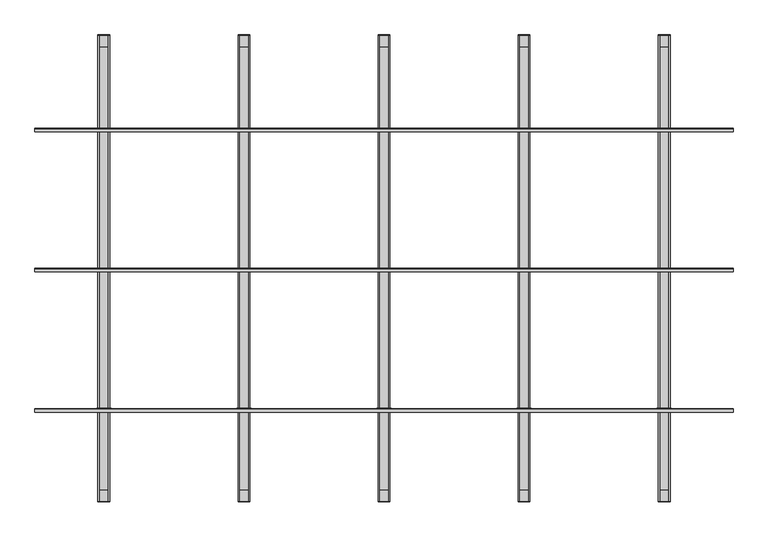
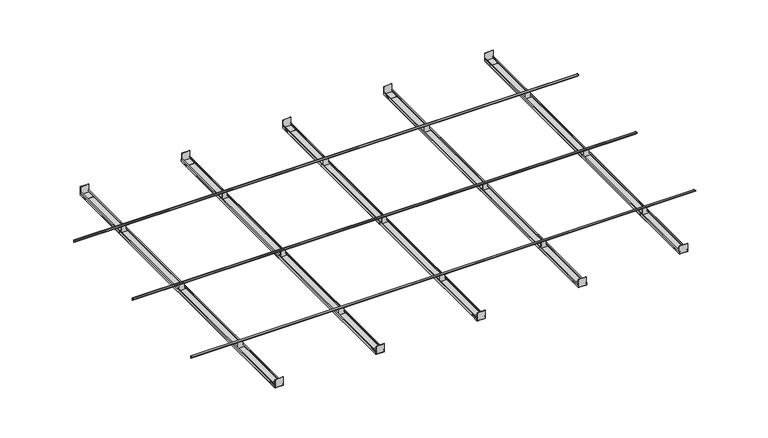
"""IFC4 building model written with IfcOpenShell, lengths in millimetres: proxy geometry, durlum_S5-100 _DOMUS : durlum_S5-100 _DOMUS."""

from ifc_helpers import new_model, si_unit, point, frame, frame_2d, origin, place, context, project, spatial, polyline, circle_curve, trimmed, segment, composite_curve, outline, extrude, source, transform, mapped, element, save


def generic_models_02727b26(model_context):
    return source(origin(), model_context, "Body", "SweptSolid", [
        extrude(outline(polyline([(1151.2053447, -1900.0), (1151.2053447, -1998.75), (1149.9553447, -1998.75), (1149.9553447, -1900.0), (1151.2053447, -1900.0)])), frame((0.0, 0.0, 3801.49723), z_axis=(0.0, 0.0, 1.0), x_axis=(1.0, 0.0, 0.0)), (0.0, 0.0, 1.0), 22.9482224),
        extrude(outline(polyline([(1248.7946553, -1900.0), (1250.0446553, -1900.0), (1250.0446553, -1998.75), (1248.7946553, -1998.75), (1248.7946553, -1900.0)])), frame((0.0, 0.0, 3801.49723), z_axis=(0.0, 0.0, 1.0), x_axis=(1.0, 0.0, 0.0)), (0.0, 0.0, 1.0), 22.9482224),
        extrude(outline(polyline([(-2000.0, 3801.49723), (-2000.0, 3901.49723), (-1998.75, 3901.49723), (-1998.75, 3802.74723), (-1900.0, 3802.74723), (-1900.0, 3801.49723), (-2000.0, 3801.49723)])), frame((1151.2053447, 0.0, 0.0), z_axis=(1.0, 0.0, 0.0), x_axis=(0.0, 1.0, 0.0)), (0.0, 0.0, 1.0), 97.5893106),
        extrude(outline(polyline([(-48.7946553, -1900.0), (-48.7946553, -1998.75), (-50.0446553, -1998.75), (-50.0446553, -1900.0), (-48.7946553, -1900.0)])), frame((0.0, 0.0, 3801.4981533), z_axis=(0.0, 0.0, 1.0), x_axis=(1.0, 0.0, 0.0)), (0.0, 0.0, 1.0), 22.9482224),
        extrude(outline(polyline([(48.7946553, -1900.0), (50.0446553, -1900.0), (50.0446553, -1998.75), (48.7946553, -1998.75), (48.7946553, -1900.0)])), frame((0.0, 0.0, 3801.4981533), z_axis=(0.0, 0.0, 1.0), x_axis=(1.0, 0.0, 0.0)), (0.0, 0.0, 1.0), 22.9482224),
        extrude(outline(polyline([(-2000.0, 3801.4981533), (-2000.0, 3901.4981533), (-1998.75, 3901.4981533), (-1998.75, 3802.7481533), (-1900.0, 3802.7481533), (-1900.0, 3801.4981533), (-2000.0, 3801.4981533)])), frame((-48.7946553, 0.0, 0.0), z_axis=(1.0, 0.0, 0.0), x_axis=(0.0, 1.0, 0.0)), (0.0, 0.0, 1.0), 97.5893106),
        extrude(outline(polyline([(1248.7946553, 1900.0), (1248.7946553, 1998.75), (1250.0446553, 1998.75), (1250.0446553, 1900.0), (1248.7946553, 1900.0)])), frame((0.0, 0.0, 3801.496446), z_axis=(0.0, 0.0, 1.0), x_axis=(1.0, 0.0, 0.0)), (0.0, 0.0, 1.0), 22.9482224),
        extrude(outline(polyline([(1151.2053447, 1900.0), (1149.9553447, 1900.0), (1149.9553447, 1998.75), (1151.2053447, 1998.75), (1151.2053447, 1900.0)])), frame((0.0, 0.0, 3801.496446), z_axis=(0.0, 0.0, 1.0), x_axis=(1.0, 0.0, 0.0)), (0.0, 0.0, 1.0), 22.9482224),
        extrude(outline(polyline([(2000.0, 3801.496446), (1900.0, 3801.496446), (1900.0, 3802.746446), (1998.75, 3802.746446), (1998.75, 3901.496446), (2000.0, 3901.496446), (2000.0, 3801.496446)])), frame((1151.2053447, 0.0, 0.0), z_axis=(1.0, 0.0, 0.0), x_axis=(0.0, 1.0, 0.0)), (0.0, 0.0, 1.0), 97.5893106),
        extrude(outline(polyline([(48.7946553, 1900.0), (48.7946553, 1998.75), (50.0446553, 1998.75), (50.0446553, 1900.0), (48.7946553, 1900.0)])), frame((0.0, 0.0, 3801.4976307), z_axis=(0.0, 0.0, 1.0), x_axis=(1.0, 0.0, 0.0)), (0.0, 0.0, 1.0), 22.9482224),
        extrude(outline(polyline([(-48.7946553, 1900.0), (-50.0446553, 1900.0), (-50.0446553, 1998.75), (-48.7946553, 1998.75), (-48.7946553, 1900.0)])), frame((0.0, 0.0, 3801.4976307), z_axis=(0.0, 0.0, 1.0), x_axis=(1.0, 0.0, 0.0)), (0.0, 0.0, 1.0), 22.9482224),
        extrude(outline(polyline([(2000.0, 3801.4976307), (1900.0, 3801.4976307), (1900.0, 3802.7476307), (1998.75, 3802.7476307), (1998.75, 3901.4976307), (2000.0, 3901.4976307), (2000.0, 3801.4976307)])), frame((-48.7946553, 0.0, 0.0), z_axis=(1.0, 0.0, 0.0), x_axis=(0.0, 1.0, 0.0)), (0.0, 0.0, 1.0), 97.5893106),
        extrude(outline(polyline([(3830.0, -1250.0), (3800.0, -1250.0), (3800.0, -1150.0), (3830.0, -1150.0), (3830.0, -1160.0), (3829.0, -1160.0), (3829.0, -1151.0), (3801.0, -1151.0), (3801.0, -1249.0), (3829.0, -1249.0), (3829.0, -1240.0), (3830.0, -1240.0), (3830.0, -1250.0)])), frame((0.0, -2000.0, 0.0), z_axis=(0.0, 1.0, 0.0), x_axis=(0.0, 0.0, 1.0)), (0.0, 0.0, 1.0), 4000.0),
        extrude(outline(polyline([(3830.0, -50.0), (3800.0, -50.0), (3800.0, 50.0), (3830.0, 50.0), (3830.0, 40.0), (3829.0, 40.0), (3829.0, 49.0), (3801.0, 49.0), (3801.0, -49.0), (3829.0, -49.0), (3829.0, -40.0), (3830.0, -40.0), (3830.0, -50.0)])), frame((0.0, -2000.0, 0.0), z_axis=(0.0, 1.0, 0.0), x_axis=(0.0, 0.0, 1.0)), (0.0, 0.0, 1.0), 4000.0),
        extrude(outline(polyline([(-1151.2053447, 1900.0), (-1151.2053447, 1998.75), (-1149.9553447, 1998.75), (-1149.9553447, 1900.0), (-1151.2053447, 1900.0)])), frame((0.0, 0.0, 3801.4988153), z_axis=(0.0, 0.0, 1.0), x_axis=(1.0, 0.0, 0.0)), (0.0, 0.0, 1.0), 22.9482224),
        extrude(outline(polyline([(-1248.7946553, 1900.0), (-1250.0446553, 1900.0), (-1250.0446553, 1998.75), (-1248.7946553, 1998.75), (-1248.7946553, 1900.0)])), frame((0.0, 0.0, 3801.4988153), z_axis=(0.0, 0.0, 1.0), x_axis=(1.0, 0.0, 0.0)), (0.0, 0.0, 1.0), 22.9482224),
        extrude(outline(polyline([(2000.0, 3801.4988153), (1900.0, 3801.4988153), (1900.0, 3802.7488153), (1998.75, 3802.7488153), (1998.75, 3901.4988153), (2000.0, 3901.4988153), (2000.0, 3801.4988153)])), frame((-1248.7946553, 0.0, 0.0), z_axis=(1.0, 0.0, 0.0), x_axis=(0.0, 1.0, 0.0)), (0.0, 0.0, 1.0), 97.5893106),
        extrude(outline(polyline([(-1248.7946553, -1900.0), (-1248.7946553, -1998.75), (-1250.0446553, -1998.75), (-1250.0446553, -1900.0), (-1248.7946553, -1900.0)])), frame((0.0, 0.0, 3801.4990767), z_axis=(0.0, 0.0, 1.0), x_axis=(1.0, 0.0, 0.0)), (0.0, 0.0, 1.0), 22.9482224),
        extrude(outline(polyline([(-1151.2053447, -1900.0), (-1149.9553447, -1900.0), (-1149.9553447, -1998.75), (-1151.2053447, -1998.75), (-1151.2053447, -1900.0)])), frame((0.0, 0.0, 3801.4990767), z_axis=(0.0, 0.0, 1.0), x_axis=(1.0, 0.0, 0.0)), (0.0, 0.0, 1.0), 22.9482224),
        extrude(outline(polyline([(-2000.0, 3801.4990767), (-2000.0, 3901.4990767), (-1998.75, 3901.4990767), (-1998.75, 3802.7490767), (-1900.0, 3802.7490767), (-1900.0, 3801.4990767), (-2000.0, 3801.4990767)])), frame((-1248.7946553, 0.0, 0.0), z_axis=(1.0, 0.0, 0.0), x_axis=(0.0, 1.0, 0.0)), (0.0, 0.0, 1.0), 97.5893106),
        extrude(outline(polyline([(2351.2053447, -1900.0), (2351.2053447, -1998.75), (2349.9553447, -1998.75), (2349.9553447, -1900.0), (2351.2053447, -1900.0)])), frame((0.0, 0.0, 3801.4963067), z_axis=(0.0, 0.0, 1.0), x_axis=(1.0, 0.0, 0.0)), (0.0, 0.0, 1.0), 22.9482224),
        extrude(outline(polyline([(2448.7946553, -1900.0), (2450.0446553, -1900.0), (2450.0446553, -1998.75), (2448.7946553, -1998.75), (2448.7946553, -1900.0)])), frame((0.0, 0.0, 3801.4963067), z_axis=(0.0, 0.0, 1.0), x_axis=(1.0, 0.0, 0.0)), (0.0, 0.0, 1.0), 22.9482224),
        extrude(outline(polyline([(-2000.0, 3801.4963067), (-2000.0, 3901.4963067), (-1998.75, 3901.4963067), (-1998.75, 3802.7463067), (-1900.0, 3802.7463067), (-1900.0, 3801.4963067), (-2000.0, 3801.4963067)])), frame((2351.2053447, 0.0, 0.0), z_axis=(1.0, 0.0, 0.0), x_axis=(0.0, 1.0, 0.0)), (0.0, 0.0, 1.0), 97.5893106),
        extrude(outline(polyline([(2448.7946553, 1900.0), (2448.7946553, 1998.75), (2450.0446553, 1998.75), (2450.0446553, 1900.0), (2448.7946553, 1900.0)])), frame((0.0, 0.0, 3801.4952614), z_axis=(0.0, 0.0, 1.0), x_axis=(1.0, 0.0, 0.0)), (0.0, 0.0, 1.0), 22.9482224),
        extrude(outline(polyline([(2351.2053447, 1900.0), (2349.9553447, 1900.0), (2349.9553447, 1998.75), (2351.2053447, 1998.75), (2351.2053447, 1900.0)])), frame((0.0, 0.0, 3801.4952614), z_axis=(0.0, 0.0, 1.0), x_axis=(1.0, 0.0, 0.0)), (0.0, 0.0, 1.0), 22.9482224),
        extrude(outline(polyline([(2000.0, 3801.4952614), (1900.0, 3801.4952614), (1900.0, 3802.7452614), (1998.75, 3802.7452614), (1998.75, 3901.4952614), (2000.0, 3901.4952614), (2000.0, 3801.4952614)])), frame((2351.2053447, 0.0, 0.0), z_axis=(1.0, 0.0, 0.0), x_axis=(0.0, 1.0, 0.0)), (0.0, 0.0, 1.0), 97.5893106),
        extrude(outline(polyline([(-2448.7946553, -1900.0), (-2448.7946553, -1998.75), (-2450.0446553, -1998.75), (-2450.0446553, -1900.0), (-2448.7946553, -1900.0)])), frame((0.0, 0.0, 3801.5), z_axis=(0.0, 0.0, 1.0), x_axis=(1.0, 0.0, 0.0)), (0.0, 0.0, 1.0), 22.9482224),
        extrude(outline(polyline([(-2351.2053447, -1900.0), (-2349.9553447, -1900.0), (-2349.9553447, -1998.75), (-2351.2053447, -1998.75), (-2351.2053447, -1900.0)])), frame((0.0, 0.0, 3801.5), z_axis=(0.0, 0.0, 1.0), x_axis=(1.0, 0.0, 0.0)), (0.0, 0.0, 1.0), 22.9482224),
        extrude(outline(polyline([(-2000.0, 3801.5), (-2000.0, 3901.5), (-1998.75, 3901.5), (-1998.75, 3802.75), (-1900.0, 3802.75), (-1900.0, 3801.5), (-2000.0, 3801.5)])), frame((-2448.7946553, 0.0, 0.0), z_axis=(1.0, 0.0, 0.0), x_axis=(0.0, 1.0, 0.0)), (0.0, 0.0, 1.0), 97.5893106),
        extrude(outline(polyline([(-2351.2053447, 1900.0), (-2351.2053447, 1998.75), (-2349.9553447, 1998.75), (-2349.9553447, 1900.0), (-2351.2053447, 1900.0)])), frame((0.0, 0.0, 3801.5), z_axis=(0.0, 0.0, 1.0), x_axis=(1.0, 0.0, 0.0)), (0.0, 0.0, 1.0), 22.9482224),
        extrude(outline(polyline([(-2448.7946553, 1900.0), (-2450.0446553, 1900.0), (-2450.0446553, 1998.75), (-2448.7946553, 1998.75), (-2448.7946553, 1900.0)])), frame((0.0, 0.0, 3801.5), z_axis=(0.0, 0.0, 1.0), x_axis=(1.0, 0.0, 0.0)), (0.0, 0.0, 1.0), 22.9482224),
        extrude(outline(polyline([(2000.0, 3801.5), (1900.0, 3801.5), (1900.0, 3802.75), (1998.75, 3802.75), (1998.75, 3901.5), (2000.0, 3901.5), (2000.0, 3801.5)])), frame((-2448.7946553, 0.0, 0.0), z_axis=(1.0, 0.0, 0.0), x_axis=(0.0, 1.0, 0.0)), (0.0, 0.0, 1.0), 97.5893106),
        extrude(outline(polyline([(3825.0, -1151.7190114), (3825.0, -1153.1717956), (3820.9590465, -1153.1717956), (3820.9590465, -1171.9750683), (3872.9865783, -1171.9750683), (3872.9865783, -1137.653609), (3900.0, -1137.653609), (3900.0, -1262.346391), (3872.9865783, -1262.346391), (3872.9865783, -1228.0249317), (3820.9590465, -1228.0249317), (3820.9590465, -1246.8282044), (3825.0, -1246.8282044), (3825.0, -1248.2809886), (3800.0, -1248.2809886), (3800.0, -1151.7190114), (3825.0, -1151.7190114)])), frame((0.0, 0.0, 0.0), z_axis=(0.0, 1.0, 0.0), x_axis=(0.0, 0.0, 1.0)), (0.0, 0.0, 1.0), 1.9953756),
        extrude(outline(polyline([(3825.0, 48.2809886), (3825.0, 46.8282044), (3820.9590465, 46.8282044), (3820.9590465, 28.0249317), (3872.9865783, 28.0249317), (3872.9865783, 62.346391), (3900.0, 62.346391), (3900.0, -62.346391), (3872.9865783, -62.346391), (3872.9865783, -28.0249317), (3820.9590465, -28.0249317), (3820.9590465, -46.8282044), (3825.0, -46.8282044), (3825.0, -48.2809886), (3800.0, -48.2809886), (3800.0, 48.2809886), (3825.0, 48.2809886)])), frame((0.0, 0.0, 0.0), z_axis=(0.0, 1.0, 0.0), x_axis=(0.0, 0.0, 1.0)), (0.0, 0.0, 1.0), 1.9953756),
        extrude(outline(polyline([(3825.0, 1248.2809886), (3825.0, 1246.8282044), (3820.9590465, 1246.8282044), (3820.9590465, 1228.0249317), (3872.9865783, 1228.0249317), (3872.9865783, 1262.346391), (3900.0, 1262.346391), (3900.0, 1137.653609), (3872.9865783, 1137.653609), (3872.9865783, 1171.9750683), (3820.9590465, 1171.9750683), (3820.9590465, 1153.1717956), (3825.0, 1153.1717956), (3825.0, 1151.7190114), (3800.0, 1151.7190114), (3800.0, 1248.2809886), (3825.0, 1248.2809886)])), frame((0.0, 0.0, 0.0), z_axis=(0.0, 1.0, 0.0), x_axis=(0.0, 0.0, 1.0)), (0.0, 0.0, 1.0), 1.9953756),
        extrude(outline(polyline([(3825.0, -2351.7190114), (3825.0, -2353.1717956), (3820.9590465, -2353.1717956), (3820.9590465, -2371.9750683), (3872.9865783, -2371.9750683), (3872.9865783, -2337.653609), (3900.0, -2337.653609), (3900.0, -2462.346391), (3872.9865783, -2462.346391), (3872.9865783, -2428.0249317), (3820.9590465, -2428.0249317), (3820.9590465, -2446.8282044), (3825.0, -2446.8282044), (3825.0, -2448.2809886), (3800.0, -2448.2809886), (3800.0, -2351.7190114), (3825.0, -2351.7190114)])), frame((0.0, 0.0, 0.0), z_axis=(0.0, 1.0, 0.0), x_axis=(0.0, 0.0, 1.0)), (0.0, 0.0, 1.0), 1.9953756),
        extrude(outline(polyline([(3825.0, 2448.2809886), (3825.0, 2446.8282044), (3820.9590465, 2446.8282044), (3820.9590465, 2428.0249317), (3872.9865783, 2428.0249317), (3872.9865783, 2462.346391), (3900.0, 2462.346391), (3900.0, 2337.653609), (3872.9865783, 2337.653609), (3872.9865783, 2371.9750683), (3820.9590465, 2371.9750683), (3820.9590465, 2353.1717956), (3825.0, 2353.1717956), (3825.0, 2351.7190114), (3800.0, 2351.7190114), (3800.0, 2448.2809886), (3825.0, 2448.2809886)])), frame((0.0, 0.0, 0.0), z_axis=(0.0, 1.0, 0.0), x_axis=(0.0, 0.0, 1.0)), (0.0, 0.0, 1.0), 1.9953756),
        extrude(outline(composite_curve([segment(polyline([(-2.0, 3876.1), (-2.0, 3902.0)]), True, "CONTINUOUS"), segment(trimmed(circle_curve(frame_2d((-4.0, 3902.0)), 2.0), [point((-2.0, 3902.0))], [point((-4.0, 3904.0))], True, "CARTESIAN"), True, "CONTINUOUS"), segment(polyline([(-4.0, 3904.0), (-29.9, 3904.0), (-29.9, 3906.0), (-4.0, 3906.0)]), True, "CONTINUOUS"), segment(trimmed(circle_curve(frame_2d((-4.0, 3902.0)), 4.0), [point((-4.0, 3906.0))], [point((0.0, 3902.0))], False, "CARTESIAN"), True, "CONTINUOUS"), segment(polyline([(0.0, 3902.0), (0.0, 3876.1), (-2.0, 3876.1)]), True, "CONTINUOUS")], self_intersect=False)), frame((-2990.0, 0.0, 0.0), z_axis=(1.0, 0.0, 0.0), x_axis=(0.0, 1.0, 0.0)), (0.0, 0.0, 1.0), 5980.0),
        extrude(outline(polyline([(3825.0, -1151.7190114), (3825.0, -1153.1717956), (3820.9590465, -1153.1717956), (3820.9590465, -1171.9750683), (3872.9865783, -1171.9750683), (3872.9865783, -1137.653609), (3900.0, -1137.653609), (3900.0, -1262.346391), (3872.9865783, -1262.346391), (3872.9865783, -1228.0249317), (3820.9590465, -1228.0249317), (3820.9590465, -1246.8282044), (3825.0, -1246.8282044), (3825.0, -1248.2809886), (3800.0, -1248.2809886), (3800.0, -1151.7190114), (3825.0, -1151.7190114)])), frame((0.0, -1200.0, 0.0), z_axis=(0.0, 1.0, 0.0), x_axis=(0.0, 0.0, 1.0)), (0.0, 0.0, 1.0), 1.9953756),
        extrude(outline(polyline([(3825.0, 48.2809886), (3825.0, 46.8282044), (3820.9590465, 46.8282044), (3820.9590465, 28.0249317), (3872.9865783, 28.0249317), (3872.9865783, 62.346391), (3900.0, 62.346391), (3900.0, -62.346391), (3872.9865783, -62.346391), (3872.9865783, -28.0249317), (3820.9590465, -28.0249317), (3820.9590465, -46.8282044), (3825.0, -46.8282044), (3825.0, -48.2809886), (3800.0, -48.2809886), (3800.0, 48.2809886), (3825.0, 48.2809886)])), frame((0.0, -1200.0, 0.0), z_axis=(0.0, 1.0, 0.0), x_axis=(0.0, 0.0, 1.0)), (0.0, 0.0, 1.0), 1.9953756),
        extrude(outline(polyline([(3825.0, 1248.2809886), (3825.0, 1246.8282044), (3820.9590465, 1246.8282044), (3820.9590465, 1228.0249317), (3872.9865783, 1228.0249317), (3872.9865783, 1262.346391), (3900.0, 1262.346391), (3900.0, 1137.653609), (3872.9865783, 1137.653609), (3872.9865783, 1171.9750683), (3820.9590465, 1171.9750683), (3820.9590465, 1153.1717956), (3825.0, 1153.1717956), (3825.0, 1151.7190114), (3800.0, 1151.7190114), (3800.0, 1248.2809886), (3825.0, 1248.2809886)])), frame((0.0, -1200.0, 0.0), z_axis=(0.0, 1.0, 0.0), x_axis=(0.0, 0.0, 1.0)), (0.0, 0.0, 1.0), 1.9953756),
        extrude(outline(polyline([(3825.0, -2351.7190114), (3825.0, -2353.1717956), (3820.9590465, -2353.1717956), (3820.9590465, -2371.9750683), (3872.9865783, -2371.9750683), (3872.9865783, -2337.653609), (3900.0, -2337.653609), (3900.0, -2462.346391), (3872.9865783, -2462.346391), (3872.9865783, -2428.0249317), (3820.9590465, -2428.0249317), (3820.9590465, -2446.8282044), (3825.0, -2446.8282044), (3825.0, -2448.2809886), (3800.0, -2448.2809886), (3800.0, -2351.7190114), (3825.0, -2351.7190114)])), frame((0.0, -1200.0, 0.0), z_axis=(0.0, 1.0, 0.0), x_axis=(0.0, 0.0, 1.0)), (0.0, 0.0, 1.0), 1.9953756),
        extrude(outline(polyline([(3825.0, 2448.2809886), (3825.0, 2446.8282044), (3820.9590465, 2446.8282044), (3820.9590465, 2428.0249317), (3872.9865783, 2428.0249317), (3872.9865783, 2462.346391), (3900.0, 2462.346391), (3900.0, 2337.653609), (3872.9865783, 2337.653609), (3872.9865783, 2371.9750683), (3820.9590465, 2371.9750683), (3820.9590465, 2353.1717956), (3825.0, 2353.1717956), (3825.0, 2351.7190114), (3800.0, 2351.7190114), (3800.0, 2448.2809886), (3825.0, 2448.2809886)])), frame((0.0, -1200.0, 0.0), z_axis=(0.0, 1.0, 0.0), x_axis=(0.0, 0.0, 1.0)), (0.0, 0.0, 1.0), 1.9953756),
        extrude(outline(composite_curve([segment(polyline([(-1202.0, 3876.1), (-1202.0, 3902.0)]), True, "CONTINUOUS"), segment(trimmed(circle_curve(frame_2d((-1204.0, 3902.0)), 2.0), [point((-1202.0, 3902.0))], [point((-1204.0, 3904.0))], True, "CARTESIAN"), True, "CONTINUOUS"), segment(polyline([(-1204.0, 3904.0), (-1229.9, 3904.0), (-1229.9, 3906.0), (-1204.0, 3906.0)]), True, "CONTINUOUS"), segment(trimmed(circle_curve(frame_2d((-1204.0, 3902.0)), 4.0), [point((-1204.0, 3906.0))], [point((-1200.0, 3902.0))], False, "CARTESIAN"), True, "CONTINUOUS"), segment(polyline([(-1200.0, 3902.0), (-1200.0, 3876.1), (-1202.0, 3876.1)]), True, "CONTINUOUS")], self_intersect=False)), frame((-2990.0, 0.0, 0.0), z_axis=(1.0, 0.0, 0.0), x_axis=(0.0, 1.0, 0.0)), (0.0, 0.0, 1.0), 5980.0),
        extrude(outline(polyline([(3830.0, 1150.0), (3800.0, 1150.0), (3800.0, 1250.0), (3830.0, 1250.0), (3830.0, 1240.0), (3829.0, 1240.0), (3829.0, 1249.0), (3801.0, 1249.0), (3801.0, 1151.0), (3829.0, 1151.0), (3829.0, 1160.0), (3830.0, 1160.0), (3830.0, 1150.0)])), frame((0.0, -2000.0, 0.0), z_axis=(0.0, 1.0, 0.0), x_axis=(0.0, 0.0, 1.0)), (0.0, 0.0, 1.0), 4000.0),
        extrude(outline(polyline([(3830.0, -2450.0), (3800.0, -2450.0), (3800.0, -2350.0), (3830.0, -2350.0), (3830.0, -2360.0), (3829.0, -2360.0), (3829.0, -2351.0), (3801.0, -2351.0), (3801.0, -2449.0), (3829.0, -2449.0), (3829.0, -2440.0), (3830.0, -2440.0), (3830.0, -2450.0)])), frame((0.0, -2000.0, 0.0), z_axis=(0.0, 1.0, 0.0), x_axis=(0.0, 0.0, 1.0)), (0.0, 0.0, 1.0), 4000.0),
        extrude(outline(polyline([(3830.0, 2350.0), (3800.0, 2350.0), (3800.0, 2450.0), (3830.0, 2450.0), (3830.0, 2440.0), (3829.0, 2440.0), (3829.0, 2449.0), (3801.0, 2449.0), (3801.0, 2351.0), (3829.0, 2351.0), (3829.0, 2360.0), (3830.0, 2360.0), (3830.0, 2350.0)])), frame((0.0, -2000.0, 0.0), z_axis=(0.0, 1.0, 0.0), x_axis=(0.0, 0.0, 1.0)), (0.0, 0.0, 1.0), 4000.0),
        extrude(outline(polyline([(3825.0, -1151.7190114), (3825.0, -1153.1717956), (3820.9590465, -1153.1717956), (3820.9590465, -1171.9750683), (3872.9865783, -1171.9750683), (3872.9865783, -1137.653609), (3900.0, -1137.653609), (3900.0, -1262.346391), (3872.9865783, -1262.346391), (3872.9865783, -1228.0249317), (3820.9590465, -1228.0249317), (3820.9590465, -1246.8282044), (3825.0, -1246.8282044), (3825.0, -1248.2809886), (3800.0, -1248.2809886), (3800.0, -1151.7190114), (3825.0, -1151.7190114)])), frame((0.0, 1200.0, 0.0), z_axis=(0.0, 1.0, 0.0), x_axis=(0.0, 0.0, 1.0)), (0.0, 0.0, 1.0), 1.9953756),
        extrude(outline(polyline([(3825.0, 48.2809886), (3825.0, 46.8282044), (3820.9590465, 46.8282044), (3820.9590465, 28.0249317), (3872.9865783, 28.0249317), (3872.9865783, 62.346391), (3900.0, 62.346391), (3900.0, -62.346391), (3872.9865783, -62.346391), (3872.9865783, -28.0249317), (3820.9590465, -28.0249317), (3820.9590465, -46.8282044), (3825.0, -46.8282044), (3825.0, -48.2809886), (3800.0, -48.2809886), (3800.0, 48.2809886), (3825.0, 48.2809886)])), frame((0.0, 1200.0, 0.0), z_axis=(0.0, 1.0, 0.0), x_axis=(0.0, 0.0, 1.0)), (0.0, 0.0, 1.0), 1.9953756),
        extrude(outline(polyline([(3825.0, 1248.2809886), (3825.0, 1246.8282044), (3820.9590465, 1246.8282044), (3820.9590465, 1228.0249317), (3872.9865783, 1228.0249317), (3872.9865783, 1262.346391), (3900.0, 1262.346391), (3900.0, 1137.653609), (3872.9865783, 1137.653609), (3872.9865783, 1171.9750683), (3820.9590465, 1171.9750683), (3820.9590465, 1153.1717956), (3825.0, 1153.1717956), (3825.0, 1151.7190114), (3800.0, 1151.7190114), (3800.0, 1248.2809886), (3825.0, 1248.2809886)])), frame((0.0, 1200.0, 0.0), z_axis=(0.0, 1.0, 0.0), x_axis=(0.0, 0.0, 1.0)), (0.0, 0.0, 1.0), 1.9953756),
        extrude(outline(polyline([(3825.0, -2351.7190114), (3825.0, -2353.1717956), (3820.9590465, -2353.1717956), (3820.9590465, -2371.9750683), (3872.9865783, -2371.9750683), (3872.9865783, -2337.653609), (3900.0, -2337.653609), (3900.0, -2462.346391), (3872.9865783, -2462.346391), (3872.9865783, -2428.0249317), (3820.9590465, -2428.0249317), (3820.9590465, -2446.8282044), (3825.0, -2446.8282044), (3825.0, -2448.2809886), (3800.0, -2448.2809886), (3800.0, -2351.7190114), (3825.0, -2351.7190114)])), frame((0.0, 1200.0, 0.0), z_axis=(0.0, 1.0, 0.0), x_axis=(0.0, 0.0, 1.0)), (0.0, 0.0, 1.0), 1.9953756),
        extrude(outline(polyline([(3825.0, 2448.2809886), (3825.0, 2446.8282044), (3820.9590465, 2446.8282044), (3820.9590465, 2428.0249317), (3872.9865783, 2428.0249317), (3872.9865783, 2462.346391), (3900.0, 2462.346391), (3900.0, 2337.653609), (3872.9865783, 2337.653609), (3872.9865783, 2371.9750683), (3820.9590465, 2371.9750683), (3820.9590465, 2353.1717956), (3825.0, 2353.1717956), (3825.0, 2351.7190114), (3800.0, 2351.7190114), (3800.0, 2448.2809886), (3825.0, 2448.2809886)])), frame((0.0, 1200.0, 0.0), z_axis=(0.0, 1.0, 0.0), x_axis=(0.0, 0.0, 1.0)), (0.0, 0.0, 1.0), 1.9953756),
        extrude(outline(composite_curve([segment(polyline([(1198.0, 3876.1), (1198.0, 3902.0)]), True, "CONTINUOUS"), segment(trimmed(circle_curve(frame_2d((1196.0, 3902.0)), 2.0), [point((1198.0, 3902.0))], [point((1196.0, 3904.0))], True, "CARTESIAN"), True, "CONTINUOUS"), segment(polyline([(1196.0, 3904.0), (1170.1, 3904.0), (1170.1, 3906.0), (1196.0, 3906.0)]), True, "CONTINUOUS"), segment(trimmed(circle_curve(frame_2d((1196.0, 3902.0)), 4.0), [point((1196.0, 3906.0))], [point((1200.0, 3902.0))], False, "CARTESIAN"), True, "CONTINUOUS"), segment(polyline([(1200.0, 3902.0), (1200.0, 3876.1), (1198.0, 3876.1)]), True, "CONTINUOUS")], self_intersect=False)), frame((-2990.0, 0.0, 0.0), z_axis=(1.0, 0.0, 0.0), x_axis=(0.0, 1.0, 0.0)), (0.0, 0.0, 1.0), 5980.0),
    ])


if __name__ == "__main__":
    model = new_model("IFC4")
    model_context = context("Model", 3, world=origin())
    ifc_project = project(units=[si_unit("LENGTHUNIT", "METRE", prefix="MILLI")], contexts=[model_context])
    site = spatial("IfcSite", under=ifc_project)
    building = spatial("IfcBuilding", under=site)
    placement = place(None, origin())
    generic_models_shape = generic_models_02727b26(model_context)
    element("IfcBuildingElementProxy", 1, Name="durlum_S5-100 _DOMUS : durlum_S5-100 _DOMUS", ObjectType="durlum_S5-100 _DOMUS : durlum_S5-100 _DOMUS", at=placement, inside=building, context=model_context, shape_type="MappedRepresentation", body=[
        mapped(generic_models_shape, transform((0.0, 0.0, 0.0), x_axis=(1.0, 0.0, 0.0), y_axis=(0.0, 1.0, 0.0), z_axis=(0.0, 0.0, 1.0))),
    ])
    save(model, "model.ifc")
